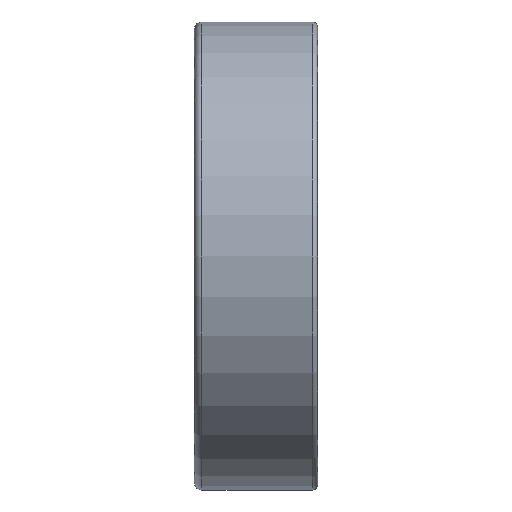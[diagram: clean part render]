
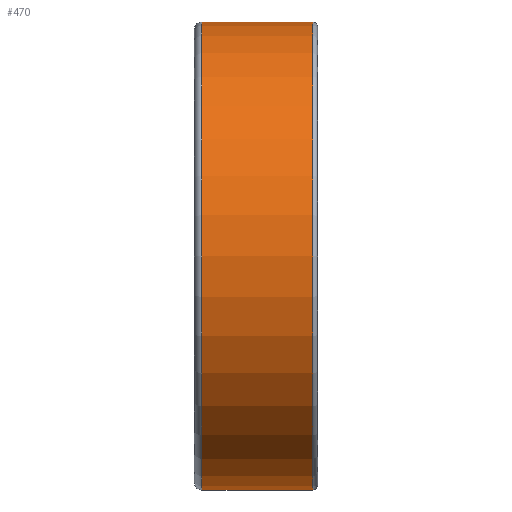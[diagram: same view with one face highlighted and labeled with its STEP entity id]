
A CAD part, front view. The second image highlights one B-rep face of the part: STEP entity #470.
In plain terms, the highlighted cylindrical face has radius 9.5 mm (diameter 19 mm), a full revolution.
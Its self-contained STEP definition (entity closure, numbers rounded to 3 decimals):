
#152=CYLINDRICAL_SURFACE('',#722,9.5);
#232=EDGE_LOOP('',(#324));
#233=EDGE_LOOP('',(#325));
#324=ORIENTED_EDGE('',*,*,#378,.F.);
#325=ORIENTED_EDGE('',*,*,#376,.T.);
#376=EDGE_CURVE('',#659,#659,#396,.T.);
#378=EDGE_CURVE('',#661,#661,#398,.T.);
#396=CIRCLE('',#718,9.5);
#398=CIRCLE('',#721,9.5);
#470=ADVANCED_FACE('',(#581,#582),#152,.T.);
#581=FACE_BOUND('',#232,.T.);
#582=FACE_BOUND('',#233,.T.);
#659=VERTEX_POINT('',#2474);
#661=VERTEX_POINT('',#2479);
#718=AXIS2_PLACEMENT_3D('',#2473,#831,#832);
#721=AXIS2_PLACEMENT_3D('',#2478,#837,#838);
#722=AXIS2_PLACEMENT_3D('',#2480,#839,#840);
#831=DIRECTION('',(1.,0.,0.));
#832=DIRECTION('',(0.,0.,-1.));
#837=DIRECTION('',(1.,0.,0.));
#838=DIRECTION('',(0.,0.,-1.));
#839=DIRECTION('',(1.,0.,0.));
#840=DIRECTION('',(0.,0.,-1.));
#2473=CARTESIAN_POINT('',(-2.2,0.,0.));
#2474=CARTESIAN_POINT('',(-2.2,0.,-9.5));
#2478=CARTESIAN_POINT('',(2.3,0.,0.));
#2479=CARTESIAN_POINT('',(2.3,0.,-9.5));
#2480=CARTESIAN_POINT('',(-2.2,0.,0.));
